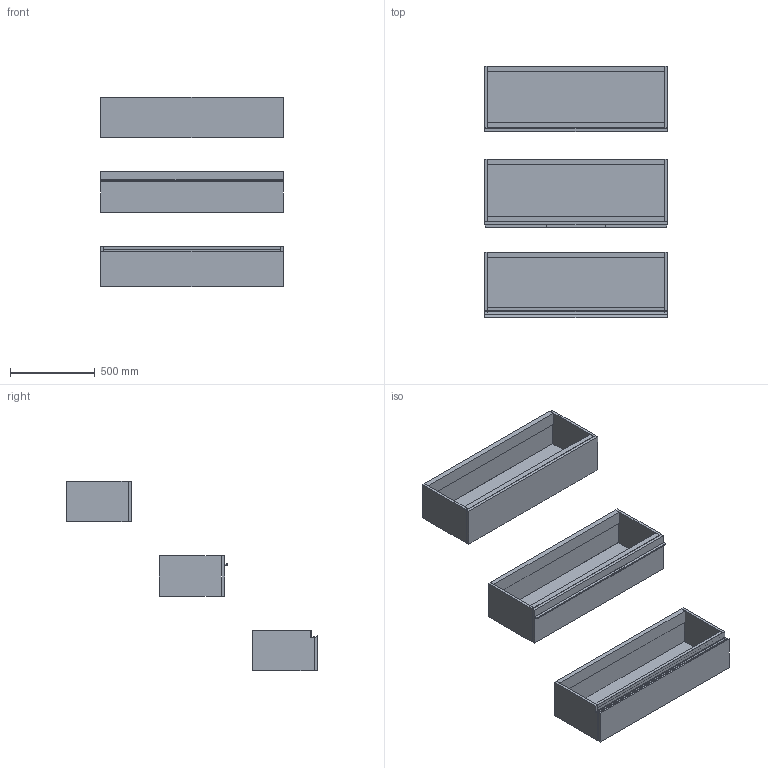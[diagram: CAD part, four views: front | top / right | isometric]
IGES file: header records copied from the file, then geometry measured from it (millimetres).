
Start section: Data from Parasolid IGES Translator 19.0.9, Copyright(c) 2006 Siemens PL M Software. All Rights Reserved.
Global section: file name: noorth-SI-H 24 D 38,8 W 108_8242.igs; native system: By Siemens PLM Incorporated; preprocessor: XPlus GENERIC/IGES 19.0.9; author: Noname; organization: Noname; date: 20200530.104150; units: metre
Bounding box: 1080 x 1485.07 x 1120.01 mm (x, y, z)
Volume: 51777613 mm3; surface area: 7715179.8 mm2
Topology: 23 solids, 23 shells, 196 faces, 418 edges, 258 vertices
Faces by surface type: plane 152, extrusion 16, bspline 16, cylinder 12
